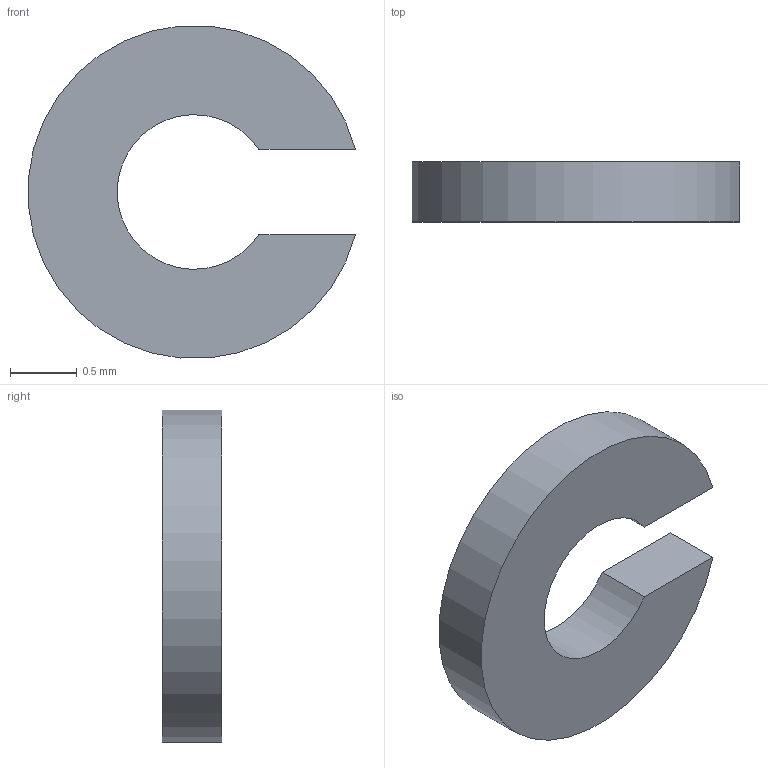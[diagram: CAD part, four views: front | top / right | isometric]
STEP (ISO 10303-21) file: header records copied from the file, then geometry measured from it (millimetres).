
FILE_DESCRIPTION(('Open CASCADE Model'),'2;1');
FILE_NAME('pin_clip','2026-11-19T17:25:15',('Author'),('Open CASCADE'), 'Open CASCADE STEP processor 7.8','build123d','Unknown');
FILE_SCHEMA(('AUTOMOTIVE_DESIGN { 1 0 10303 214 1 1 1 1 }'));
Length unit declared in the file: millimetre
Products named in the file (1): pin_clip
Bounding box: 2.45 x 0.45 x 2.49 mm (x, y, z)
Volume: 1.5 mm3; surface area: 12.1 mm2
Topology: 1 solids, 1 shells, 6 faces, 12 edges, 8 vertices
Faces by surface type: plane 4, cylinder 2
Entity records: 325 total; most frequent: CARTESIAN_POINT 79, DIRECTION 36, ORIENTED_EDGE 24, PCURVE 24, DEFINITIONAL_REPRESENTATION 24, B_SPLINE_CURVE_WITH_KNOTS 16, EDGE_CURVE 12, SURFACE_CURVE 12
